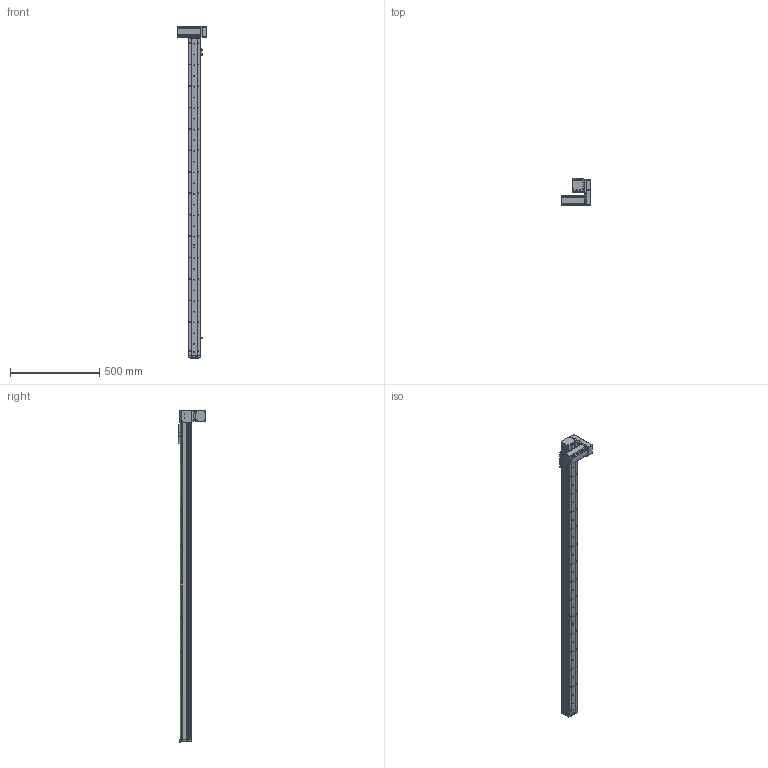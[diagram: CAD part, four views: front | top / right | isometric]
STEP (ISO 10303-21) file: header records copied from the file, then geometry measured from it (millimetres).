
FILE_DESCRIPTION (( 'STEP AP214' ), '1' );
FILE_NAME ('KSD68BS-S1600-MLD-CR.STEP', '2019-08-27T06:04:53', ( '微软用户' ), ( '微软中国' ), 'SwSTEP 2.0', 'SolidWorks 2014', '' );
FILE_SCHEMA (( 'AUTOMOTIVE_DESIGN' ));
Length unit declared in the file: millimetre
Products named in the file (14): 68单导轨全封闭同步带电机座左; 68单导轨全封闭同步带安装板; 悵誘欶奻狟殏; 68宽马达安装板连板上折同步带; 感应片68宽全封闭; U倰嫖萇EEㄜSX672; 68遵裔啣揤啣1; 台达ECMA－C20604AS伺服电机（400W); KSD68BS 1600行程底板全封闭; KSD68BS-S1600-MLD-CR; KSD68BS 1600行程盖板全封闭; 68宽单导轨全封闭丝杆传动安装板1防护罩; KSD68BS 1600行程侧板全封闭; 68宽单导轨全封闭同步带端板
Assembly tree (17 placements, depth 2):
  KSD68BS-S1600-MLD-CR
    KSD68BS 1600行程底板全封闭
    台达ECMA－C20604AS伺服电机（400W)
    U倰嫖萇EEㄜSX672  x3
    感应片68宽全封闭
    68宽马达安装板连板上折同步带
    悵誘欶奻狟殏
    68单导轨全封闭同步带安装板
    68单导轨全封闭同步带电机座左
    68宽单导轨全封闭同步带端板
    KSD68BS 1600行程侧板全封闭  x2
    68宽单导轨全封闭丝杆传动安装板1防护罩
    68遵裔啣揤啣1  x2
    KSD68BS 1600行程盖板全封闭
Bounding box: 167.2 x 155.5 x 1858.1 mm (x, y, z)
Volume: 3344810.3 mm3; surface area: 1353304 mm2
Topology: 18 solids, 18 shells, 1605 faces, 4619 edges, 2944 vertices
Faces by surface type: cylinder 788, plane 629, cone 188
Entity records: 52343 total; most frequent: CARTESIAN_POINT 9127, DIRECTION 7786, ORIENTED_EDGE 7450, EDGE_CURVE 3725, AXIS2_PLACEMENT_3D 2839, VERTEX_POINT 2442, VECTOR 2108, LINE 2108
